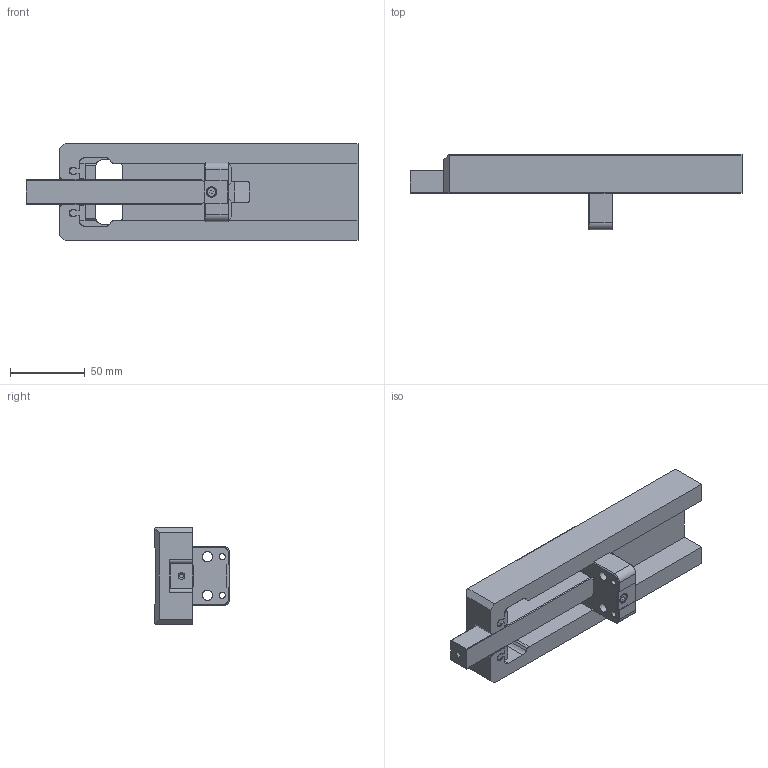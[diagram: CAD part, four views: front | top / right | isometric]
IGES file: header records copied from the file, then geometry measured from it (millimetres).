
Start section: SolidWorks IGES file using analytic representation for surfaces
Global section: file name: G:\CAD\Hakdrag\SA\SA-80(SA65)\SA-80-200-00.igs; native system: SolidWorks 2015; preprocessor: SolidWorks 2015; author: ChBe; date: 150616.070848; units: millimetre
Bounding box: 222.66 x 50.7 x 65 mm (x, y, z)
Surface area: 61103.3 mm2 (no closed solid volume)
Topology: 0 solids, 0 shells, 158 faces, 1838 edges, 1838 vertices
Faces by surface type: bspline 99, revolution 59
